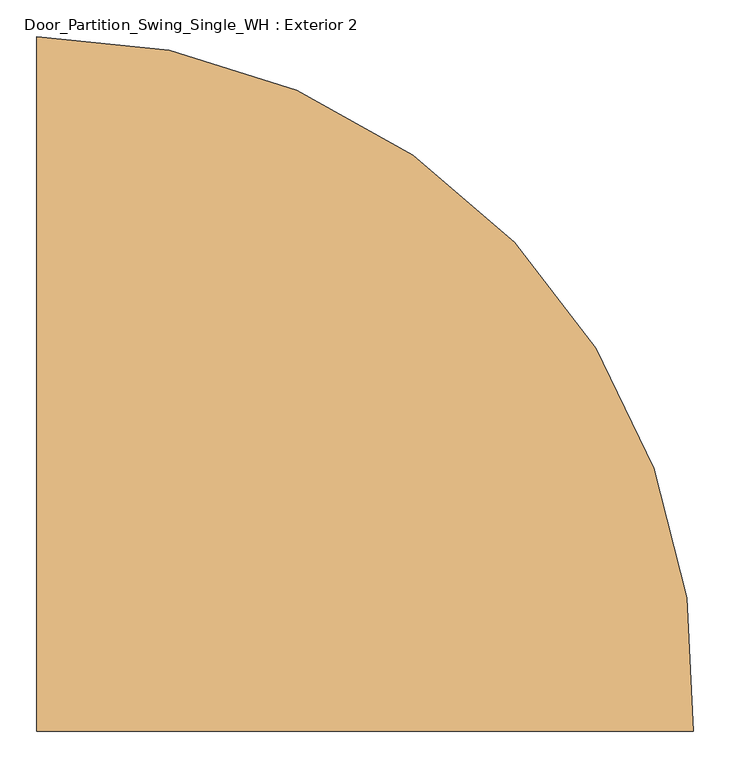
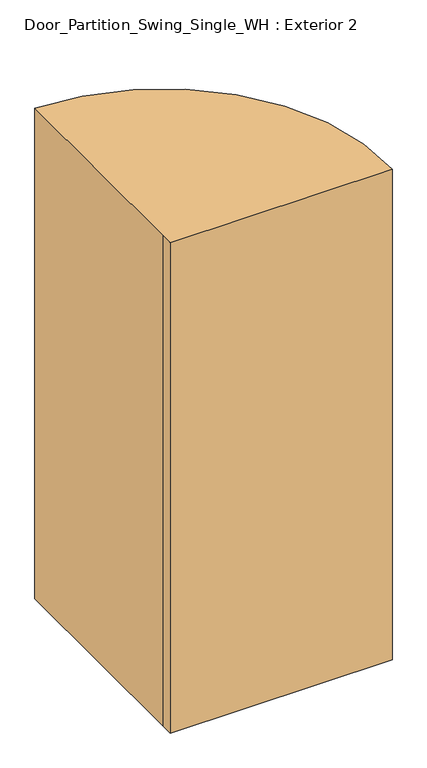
"""IFC4 building model written with IfcOpenShell, lengths in millimetres: door geometry, Door_Partition_Swing_Single_WH : Exterior 2."""

from ifc_helpers import new_model, si_unit, point, frame_2d, origin, origin_with_axes, place, context, project, spatial, polyline, circle_curve, trimmed, segment, composite_curve, outline, extrude, source, transform, mapped, element, save


def door_partition_swing_single_wh_exterior_2_0468d7f5(model_context):
    return source(origin(), model_context, "Body", "SweptSolid", [
        extrude(outline(composite_curve([segment(polyline([(-431.6346798, 51.6), (-431.6346798, 101.6), (-431.6346798, 1001.6)]), True, "CONTINUOUS"), segment(trimmed(circle_curve(frame_2d((-431.6346798, 101.6)), 900.0), [point((-431.6346798, 1001.6))], [point((466.9753579, 51.6))], False, "CARTESIAN"), True, "CONTINUOUS"), segment(polyline([(466.9753579, 51.6), (-431.6346798, 51.6)]), True, "CONTINUOUS")], self_intersect=False)), origin_with_axes(), (0.0, 0.0, 1.0), 2100.0),
    ])


if __name__ == "__main__":
    model = new_model("IFC4")
    model_context = context("Model", 3, world=origin())
    ifc_project = project(units=[si_unit("LENGTHUNIT", "METRE", prefix="MILLI")], contexts=[model_context])
    site = spatial("IfcSite", under=ifc_project)
    building = spatial("IfcBuilding", under=site)
    placement = place(None, origin())
    door_partition_swing_single_wh_exterior_2_shape = door_partition_swing_single_wh_exterior_2_0468d7f5(model_context)
    element("IfcDoor", 1, ObjectType="Door_Partition_Swing_Single_WH : Exterior 2", at=placement, inside=building, context=model_context, shape_type="MappedRepresentation", body=[
        mapped(door_partition_swing_single_wh_exterior_2_shape, transform((0.0, 0.0, 0.0), x_axis=(1.0, 0.0, 0.0), y_axis=(0.0, 1.0, 0.0), z_axis=(0.0, 0.0, 1.0))),
    ])
    save(model, "model.ifc")
